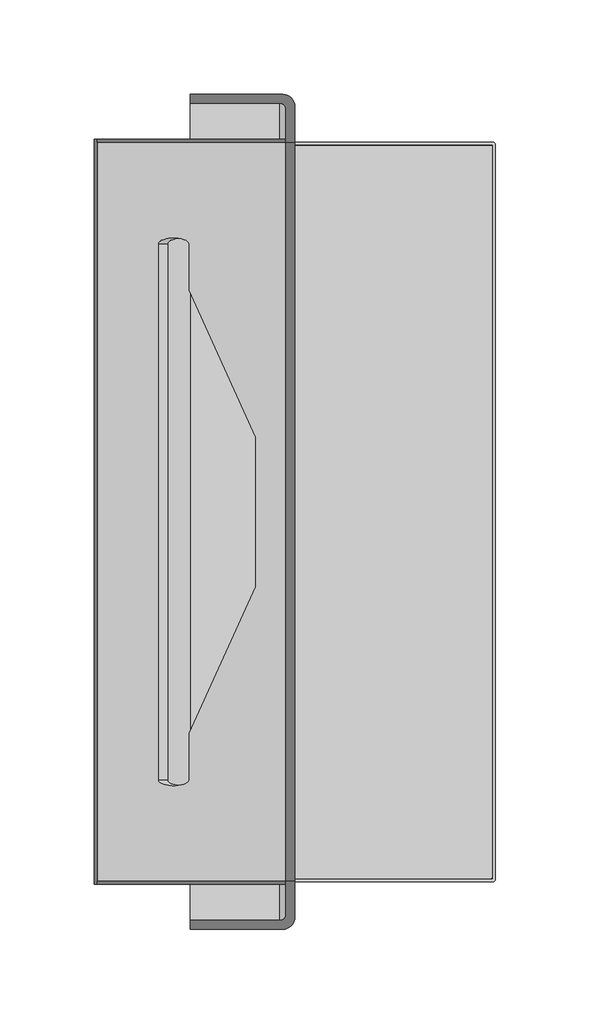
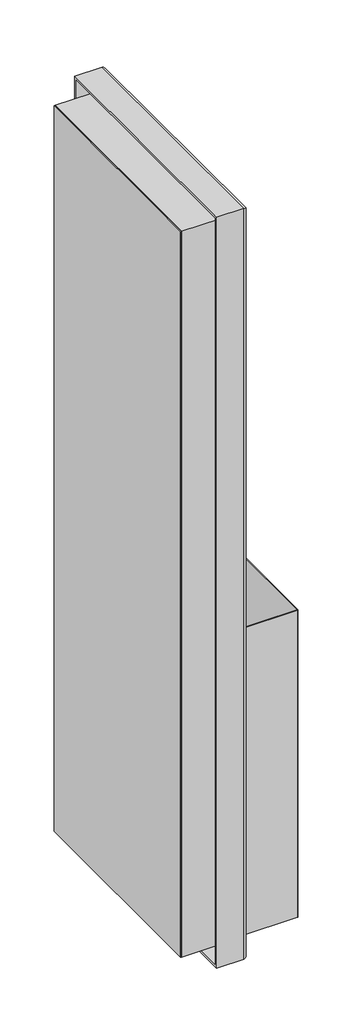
# One storey: 1 proxy.
"""IFC4 building model written with IfcOpenShell, lengths in millimetres."""

from ifc_helpers import new_model, si_unit, origin, place, context, project, spatial, transform, mapped, element, save
from components import b_3942_52b249c4

model = new_model("IFC4")

# Units and contexts
model_context = context("Model", 3, world=origin())
ifc_project = project(units=[si_unit("LENGTHUNIT", "METRE", prefix="MILLI")], contexts=[model_context])

# Site, building, storey
site = spatial("IfcSite", under=ifc_project)
building = spatial("IfcBuilding", under=site)
storey = spatial("IfcBuildingStorey", under=building, Name="T.O FOOTING - INTERIOR", Elevation=-203.2)

# Proxy
placement = place(None, origin())
b_3942_shape = b_3942_52b249c4(model_context)
element("IfcBuildingElementProxy", 1, Name="Paper_Towel_Dispenser_And_Waste_Receptacle-Bobrick-B3942-Semi_Recessed_Convertible : B-3942", ObjectType="Paper_Towel_Dispenser_And_Waste_Receptacle-Bobrick-B3942-Semi_Recessed_Convertible : B-3942", at=placement, inside=storey, context=model_context, shape_type="MappedRepresentation", body=[
    mapped(b_3942_shape, transform((169.0120129, 6649.3786668, 530.225), x_axis=(0.0, 1.0, 0.0), y_axis=(0.0, 0.0, 1.0), z_axis=(1.0, 0.0, 0.0))),
])

save(model, "model.ifc")
